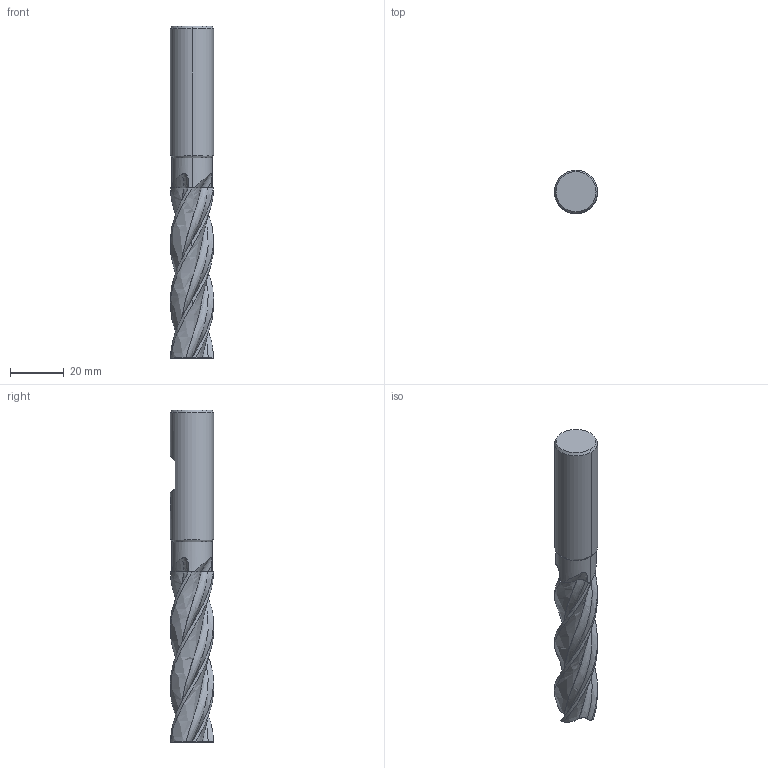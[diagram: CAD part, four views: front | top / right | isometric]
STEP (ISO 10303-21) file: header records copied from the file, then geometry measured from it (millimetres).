
FILE_DESCRIPTION(('no description'),'unknown implementation level');
FILE_NAME('solidZ1zEwOYGgri_zoIUTc_Q0cuLHF0_1.STP',' ',('CIMSOURCE GmbH'),('CADClick - KiM GmbH - www.kimweb.de'),'unknown preprocess','ACIS','unknown authorization');
FILE_SCHEMA(('automotive_design'));
Length unit declared in the file: millimetre
Products named in the file (2): NOCUT; CUT
Bounding box: 16 x 16 x 123 mm (x, y, z)
Volume: 18305.7 mm3; surface area: 9901.4 mm2
Topology: 2 solids, 2 shells, 129 faces, 366 edges, 240 vertices
Faces by surface type: bspline 48, plane 27, cone 26, cylinder 16, revolution 12
Entity records: 25908 total; most frequent: CARTESIAN_POINT 18935, STYLED_ITEM 737, PRESENTATION_STYLE_ASSIGNMENT 737, COLOUR_RGB 737, ORIENTED_EDGE 732, DIRECTION 400, EDGE_CURVE 366, CURVE_STYLE 366
